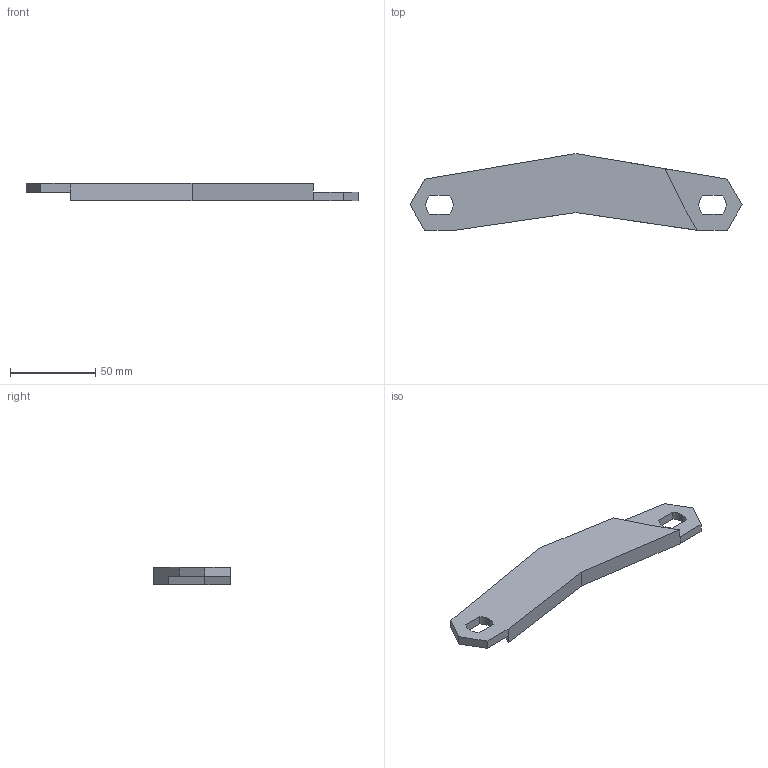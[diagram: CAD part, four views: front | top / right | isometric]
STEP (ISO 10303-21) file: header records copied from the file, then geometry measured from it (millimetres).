
FILE_DESCRIPTION(/* description */ (''),/* implementation_level */ '2;1');
FILE_NAME(/* name */ 'D:/Dokumenty/3D/Luke''s 3D/Projects/Spool winder v3/STEP/Bottom.step',/* time_stamp */ '2021-11-14T13:08:46+01:00',/* author */ (''),/* organization */ (''),/* preprocessor_version */ 'ST-DEVELOPER v18.1',/* originating_system */ 'Autodesk Translation Framework v10.10.0.1391',/* authorisation */ '');
FILE_SCHEMA (('AUTOMOTIVE_DESIGN { 1 0 10303 214 3 1 1 }'));
Length unit declared in the file: millimetre
Products named in the file (4): Spool winder 2; Side; trojuholnik; Spodok
Assembly tree (3 placements, depth 4):
  Spool winder 2
    Side
      trojuholnik
        Spodok
Bounding box: 194.64 x 45 x 10 mm (x, y, z)
Volume: 50141 mm3; surface area: 15980.5 mm2
Topology: 1 solids, 1 shells, 26 faces, 72 edges, 48 vertices
Faces by surface type: plane 22, cylinder 4
Entity records: 932 total; most frequent: CARTESIAN_POINT 153, DIRECTION 146, ORIENTED_EDGE 144, EDGE_CURVE 72, LINE 64, VECTOR 64, VERTEX_POINT 48, AXIS2_PLACEMENT_3D 41
